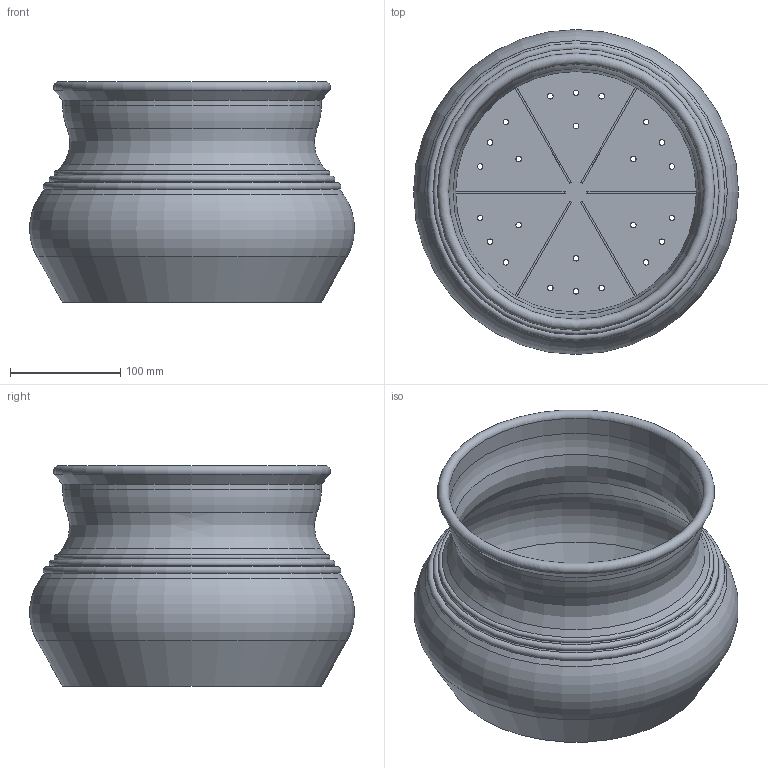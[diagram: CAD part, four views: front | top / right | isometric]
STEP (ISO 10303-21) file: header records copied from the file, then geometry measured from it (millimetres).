
FILE_DESCRIPTION(/* description */ (''),/* implementation_level */ '2;1');
FILE_NAME(/* name */ 'LR2406-S17-H200-D300_step.step',/* time_stamp */ '2024-02-01T11:03:30+01:00',/* author */ (''),/* organization */ (''),/* preprocessor_version */ 'ST-DEVELOPER v20',/* originating_system */ 'Autodesk Translation Framework v12.20.1.177',/* authorisation */ '');
FILE_SCHEMA (('AUTOMOTIVE_DESIGN { 1 0 10303 214 3 1 1 }'));
Length unit declared in the file: millimetre
Products named in the file (1): LR2406-S17-H200-D300
Bounding box: 294.7 x 294.7 x 200 mm (x, y, z)
Volume: 467666 mm3; surface area: 451421.9 mm2
Topology: 1 solids, 1 shells, 70 faces, 185 edges, 117 vertices
Faces by surface type: cylinder 32, plane 20, torus 10, cone 8
Full cylindrical faces by diameter (mm): 5 x24, 231.36 x1, 234.72 x1
Entity records: 2336 total; most frequent: DIRECTION 430, CARTESIAN_POINT 373, ORIENTED_EDGE 370, EDGE_CURVE 185, AXIS2_PLACEMENT_3D 174, EDGE_LOOP 118, VERTEX_POINT 117, CIRCLE 103
